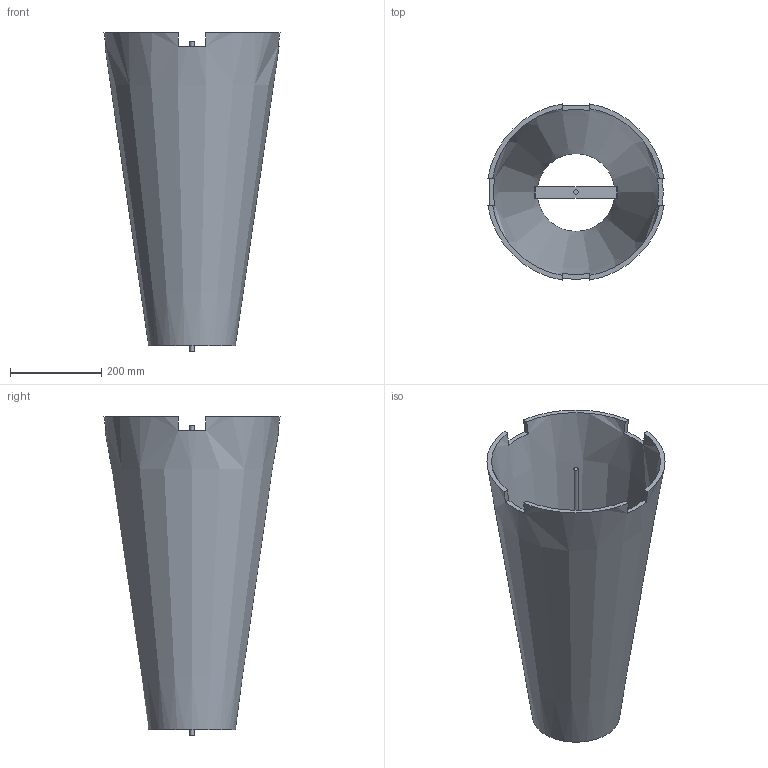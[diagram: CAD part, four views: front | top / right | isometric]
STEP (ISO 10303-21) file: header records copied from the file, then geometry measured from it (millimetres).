
FILE_DESCRIPTION( ( 'STEP AP214' ), '1' );
FILE_NAME( 'D:/Yug/2021/Delta/desk_and_office_organisation/QC/45825.stp', '2021-01-21T10:13:11', ( '' ), ( '' ), ' ', 'PARTsolutions', ' ' );
FILE_SCHEMA( ( 'AUTOMOTIVE_DESIGN { 1 0 10303 214 1 1 1 1 }' ) );
Length unit declared in the file: millimetre
Products named in the file (4): 45825; _45825_3; _45825_1; _45825_2
Assembly tree (3 placements, depth 2):
  45825
    _45825_3
    _45825_1
    _45825_2
Bounding box: 385.36 x 385.36 x 697 mm (x, y, z)
Volume: 6014579.9 mm3; surface area: 1256301.1 mm2
Topology: 3 solids, 3 shells, 32 faces, 81 edges, 54 vertices
Faces by surface type: plane 29, cone 2, cylinder 1
Full cylindrical faces by diameter (mm): 10 x1
Entity records: 1278 total; most frequent: CARTESIAN_POINT 212, DIRECTION 152, ORIENTED_EDGE 152, EDGE_CURVE 76, AXIS2_PLACEMENT_3D 56, VERTEX_POINT 52, LINE 40, VECTOR 40
